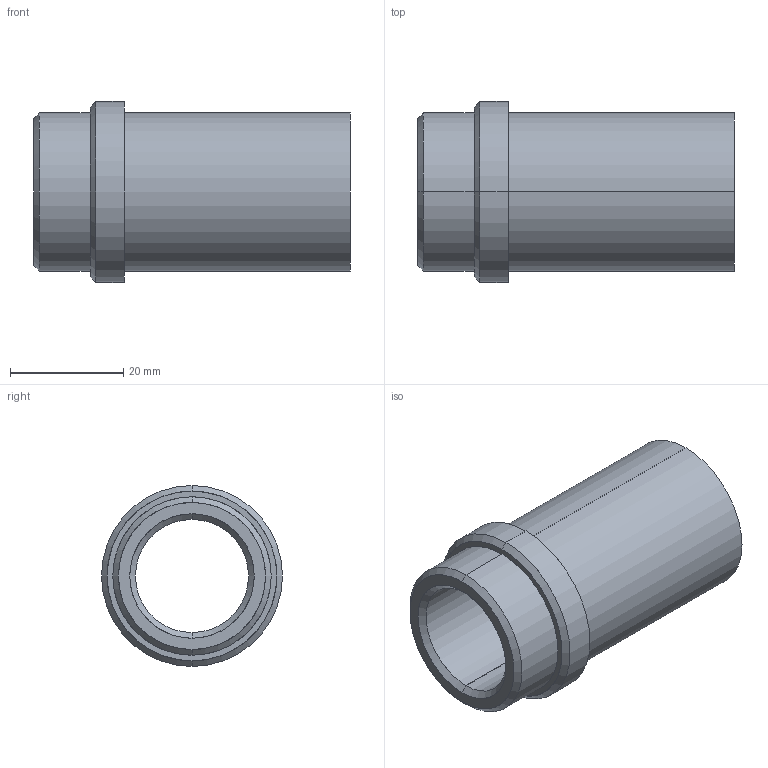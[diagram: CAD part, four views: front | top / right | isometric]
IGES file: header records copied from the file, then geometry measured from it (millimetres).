
Start section: START RECORD GO HERE.
Global section: file name: 358-20x56.igs; native system: DASSAULT SYSTEMES CATIA V5 R20 - www.3ds.com; preprocessor: CATIA Version 5 Release 20 ; author: Utente; organization: NB04-ASUS; date: 20210408.144608; units: millimetre
Bounding box: 56 x 32 x 32 mm (x, y, z)
Surface area: 9299.5 mm2 (no closed solid volume)
Topology: 0 solids, 0 shells, 20 faces, 128 edges, 128 vertices
Faces by surface type: revolution 16, plane 4
